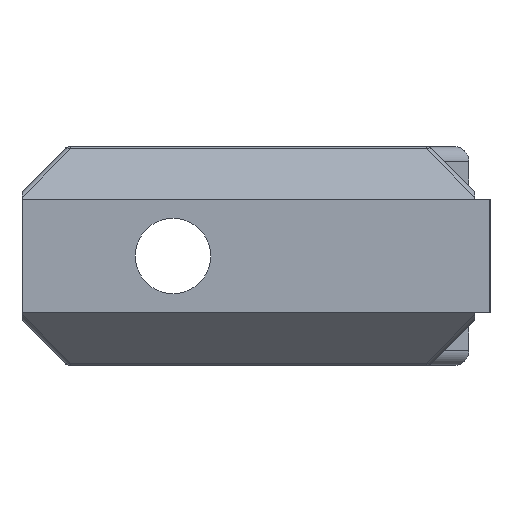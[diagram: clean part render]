
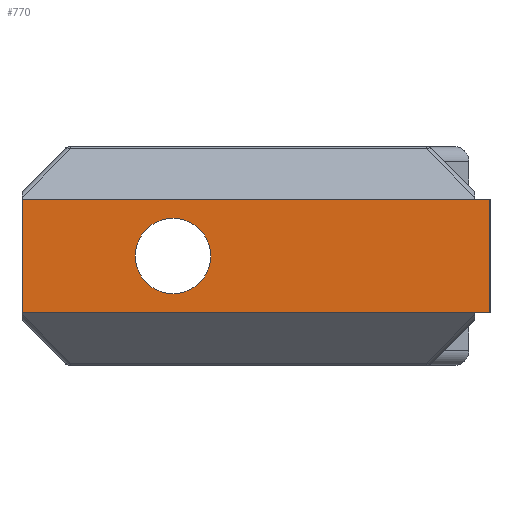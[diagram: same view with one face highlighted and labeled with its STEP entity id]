
A CAD part, left-side view. The second image highlights one B-rep face of the part: STEP entity #770.
In plain terms, the highlighted planar face has unit normal (-1, 0, 0).
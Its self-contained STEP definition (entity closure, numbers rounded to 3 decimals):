
#81 = CARTESIAN_POINT ( 'NONE',  ( 0., 31., 3.75 ) ) ;
#112 = VECTOR ( 'NONE', #1099, 1000. ) ;
#116 = EDGE_CURVE ( 'NONE', #1330, #1163, #164, .T. ) ;
#135 = EDGE_LOOP ( 'NONE', ( #1048, #1553, #844, #1692, #1472, #1328 ) ) ;
#141 = VECTOR ( 'NONE', #1388, 1000. ) ;
#147 = VECTOR ( 'NONE', #236, 1000. ) ;
#164 = CIRCLE ( 'NONE', #1046, 2.5 ) ;
#168 = VERTEX_POINT ( 'NONE', #547 ) ;
#236 = DIRECTION ( 'NONE',  ( 0., 0., -1. ) ) ;
#250 = FACE_OUTER_BOUND ( 'NONE', #135, .T. ) ;
#348 = CIRCLE ( 'NONE', #746, 2.5 ) ;
#349 = CARTESIAN_POINT ( 'NONE',  ( 0., 1., -3.75 ) ) ;
#353 = PLANE ( 'NONE',  #1649 ) ;
#358 = DIRECTION ( 'NONE',  ( 1., 0., 0. ) ) ;
#386 = CARTESIAN_POINT ( 'NONE',  ( 0., 31., -3.75 ) ) ;
#498 = DIRECTION ( 'NONE',  ( 1., 0., 0. ) ) ;
#547 = CARTESIAN_POINT ( 'NONE',  ( 0., 0., 3.75 ) ) ;
#581 = LINE ( 'NONE', #1818, #141 ) ;
#597 = EDGE_LOOP ( 'NONE', ( #676, #1460 ) ) ;
#619 = FACE_BOUND ( 'NONE', #597, .T. ) ;
#633 = CARTESIAN_POINT ( 'NONE',  ( 0., 1., 3.75 ) ) ;
#675 = CARTESIAN_POINT ( 'NONE',  ( 0., 0., 3.75 ) ) ;
#676 = ORIENTED_EDGE ( 'NONE', *, *, #116, .T. ) ;
#746 = AXIS2_PLACEMENT_3D ( 'NONE', #1226, #358, #1383 ) ;
#770 = ADVANCED_FACE ( 'NONE', ( #619, #250 ), #353, .F. ) ;
#809 = EDGE_CURVE ( 'NONE', #979, #1787, #581, .T. ) ;
#844 = ORIENTED_EDGE ( 'NONE', *, *, #809, .T. ) ;
#882 = LINE ( 'NONE', #1250, #112 ) ;
#927 = LINE ( 'NONE', #81, #147 ) ;
#953 = CARTESIAN_POINT ( 'NONE',  ( 0., 0., 3.75 ) ) ;
#962 = DIRECTION ( 'NONE',  ( 0., -1., 0. ) ) ;
#979 = VERTEX_POINT ( 'NONE', #349 ) ;
#1003 = EDGE_CURVE ( 'NONE', #1163, #1330, #348, .T. ) ;
#1046 = AXIS2_PLACEMENT_3D ( 'NONE', #1290, #1280, #1256 ) ;
#1048 = ORIENTED_EDGE ( 'NONE', *, *, #1731, .T. ) ;
#1056 = VERTEX_POINT ( 'NONE', #386 ) ;
#1094 = CARTESIAN_POINT ( 'NONE',  ( 0., 0., -3.75 ) ) ;
#1099 = DIRECTION ( 'NONE',  ( 0., -1., 0. ) ) ;
#1103 = VERTEX_POINT ( 'NONE', #633 ) ;
#1105 = DIRECTION ( 'NONE',  ( 0., 0., -1. ) ) ;
#1163 = VERTEX_POINT ( 'NONE', #1508 ) ;
#1226 = CARTESIAN_POINT ( 'NONE',  ( 0., 21., 0. ) ) ;
#1250 = CARTESIAN_POINT ( 'NONE',  ( 0., 1., -3.75 ) ) ;
#1256 = DIRECTION ( 'NONE',  ( 0., 0., -1. ) ) ;
#1276 = VECTOR ( 'NONE', #1105, 1000. ) ;
#1280 = DIRECTION ( 'NONE',  ( 1., 0., 0. ) ) ;
#1290 = CARTESIAN_POINT ( 'NONE',  ( 0., 21., 0. ) ) ;
#1309 = VERTEX_POINT ( 'NONE', #1372 ) ;
#1328 = ORIENTED_EDGE ( 'NONE', *, *, #1855, .T. ) ;
#1330 = VERTEX_POINT ( 'NONE', #1525 ) ;
#1372 = CARTESIAN_POINT ( 'NONE',  ( 0., 31., 3.75 ) ) ;
#1375 = CARTESIAN_POINT ( 'NONE',  ( 0., 0., 3.75 ) ) ;
#1383 = DIRECTION ( 'NONE',  ( 0., 0., -1. ) ) ;
#1388 = DIRECTION ( 'NONE',  ( 0., -1., 0. ) ) ;
#1407 = CARTESIAN_POINT ( 'NONE',  ( 0., 31., 3.75 ) ) ;
#1460 = ORIENTED_EDGE ( 'NONE', *, *, #1003, .T. ) ;
#1472 = ORIENTED_EDGE ( 'NONE', *, *, #1802, .F. ) ;
#1473 = VECTOR ( 'NONE', #962, 1000. ) ;
#1508 = CARTESIAN_POINT ( 'NONE',  ( 0., 21., 2.5 ) ) ;
#1519 = DIRECTION ( 'NONE',  ( 0., 0., -1. ) ) ;
#1522 = LINE ( 'NONE', #953, #1473 ) ;
#1525 = CARTESIAN_POINT ( 'NONE',  ( 0., 21., -2.5 ) ) ;
#1552 = DIRECTION ( 'NONE',  ( 0., 1., 0. ) ) ;
#1553 = ORIENTED_EDGE ( 'NONE', *, *, #1738, .T. ) ;
#1648 = LINE ( 'NONE', #675, #1276 ) ;
#1649 = AXIS2_PLACEMENT_3D ( 'NONE', #1375, #498, #1519 ) ;
#1692 = ORIENTED_EDGE ( 'NONE', *, *, #1721, .F. ) ;
#1721 = EDGE_CURVE ( 'NONE', #168, #1787, #1648, .T. ) ;
#1731 = EDGE_CURVE ( 'NONE', #1309, #1056, #927, .T. ) ;
#1738 = EDGE_CURVE ( 'NONE', #1056, #979, #882, .T. ) ;
#1769 = VECTOR ( 'NONE', #1552, 1000. ) ;
#1787 = VERTEX_POINT ( 'NONE', #1094 ) ;
#1802 = EDGE_CURVE ( 'NONE', #1103, #168, #1522, .T. ) ;
#1818 = CARTESIAN_POINT ( 'NONE',  ( 0., 0., -3.75 ) ) ;
#1855 = EDGE_CURVE ( 'NONE', #1103, #1309, #1875, .T. ) ;
#1875 = LINE ( 'NONE', #1407, #1769 ) ;
